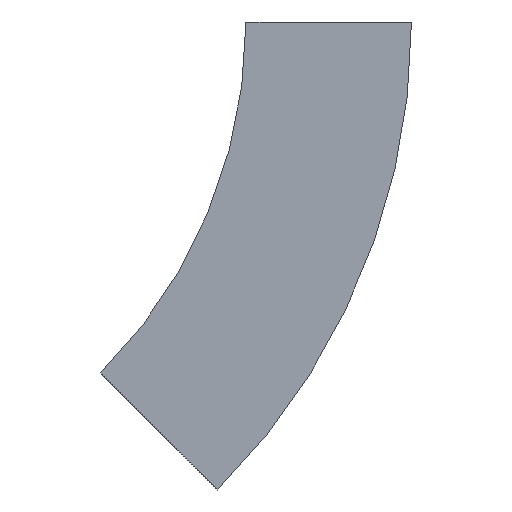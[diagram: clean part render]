
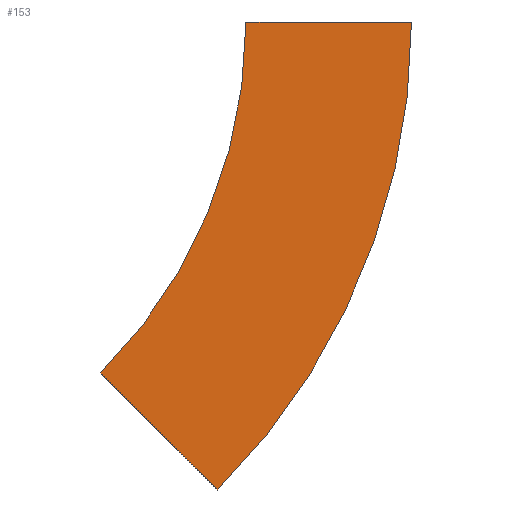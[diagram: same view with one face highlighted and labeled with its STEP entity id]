
A CAD part, left-side view. The second image highlights one B-rep face of the part: STEP entity #153.
In plain terms, the highlighted planar face has unit normal (-1, 0, 0) as drawn and (1, 0, 0) by its records, which use the part's own axes.
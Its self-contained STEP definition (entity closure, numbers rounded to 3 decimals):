
#9 = DIRECTION ( 'NONE',  ( 0., -1., 0. ) ) ;
#16 = AXIS2_PLACEMENT_3D ( 'NONE', #186, #143, #83 ) ;
#21 = CARTESIAN_POINT ( 'NONE',  ( 0., 0., 0. ) ) ;
#26 = VERTEX_POINT ( 'NONE', #509 ) ;
#38 = ORIENTED_EDGE ( 'NONE', *, *, #359, .F. ) ;
#65 = AXIS2_PLACEMENT_3D ( 'NONE', #313, #477, #223 ) ;
#83 = DIRECTION ( 'NONE',  ( 0., -1., 0. ) ) ;
#85 = CARTESIAN_POINT ( 'NONE',  ( 0., -100., 0. ) ) ;
#105 = ORIENTED_EDGE ( 'NONE', *, *, #471, .F. ) ;
#129 = VERTEX_POINT ( 'NONE', #435 ) ;
#142 = PLANE ( 'NONE',  #65 ) ;
#143 = DIRECTION ( 'NONE',  ( 1., 0., 0. ) ) ;
#153 = ADVANCED_FACE ( 'NONE', ( #523 ), #142, .F. ) ;
#155 = VECTOR ( 'NONE', #517, 1000. ) ;
#160 = EDGE_LOOP ( 'NONE', ( #105, #38, #468, #246 ) ) ;
#186 = CARTESIAN_POINT ( 'NONE',  ( 0., 300., 0. ) ) ;
#220 = VECTOR ( 'NONE', #424, 1000. ) ;
#223 = DIRECTION ( 'NONE',  ( 0., 0., 1. ) ) ;
#233 = AXIS2_PLACEMENT_3D ( 'NONE', #311, #474, #9 ) ;
#246 = ORIENTED_EDGE ( 'NONE', *, *, #440, .T. ) ;
#264 = VERTEX_POINT ( 'NONE', #21 ) ;
#280 = CIRCLE ( 'NONE', #16, 300. ) ;
#311 = CARTESIAN_POINT ( 'NONE',  ( 0., 300., 0. ) ) ;
#313 = CARTESIAN_POINT ( 'NONE',  ( 0., -100., 0. ) ) ;
#314 = LINE ( 'NONE', #85, #155 ) ;
#359 = EDGE_CURVE ( 'NONE', #129, #264, #314, .T. ) ;
#391 = CARTESIAN_POINT ( 'NONE',  ( 0., 17.157, -282.843 ) ) ;
#399 = CIRCLE ( 'NONE', #233, 400. ) ;
#408 = EDGE_CURVE ( 'NONE', #129, #558, #399, .T. ) ;
#424 = DIRECTION ( 'NONE',  ( 0., 0.707, 0.707 ) ) ;
#435 = CARTESIAN_POINT ( 'NONE',  ( 0., -100., 0. ) ) ;
#440 = EDGE_CURVE ( 'NONE', #558, #26, #524, .T. ) ;
#468 = ORIENTED_EDGE ( 'NONE', *, *, #408, .T. ) ;
#471 = EDGE_CURVE ( 'NONE', #264, #26, #280, .T. ) ;
#474 = DIRECTION ( 'NONE',  ( 1., 0., 0. ) ) ;
#477 = DIRECTION ( 'NONE',  ( -1., 0., 0. ) ) ;
#509 = CARTESIAN_POINT ( 'NONE',  ( 0., 87.868, -212.132 ) ) ;
#517 = DIRECTION ( 'NONE',  ( 0., 1., 0. ) ) ;
#519 = CARTESIAN_POINT ( 'NONE',  ( 0., 17.157, -282.843 ) ) ;
#523 = FACE_OUTER_BOUND ( 'NONE', #160, .T. ) ;
#524 = LINE ( 'NONE', #391, #220 ) ;
#558 = VERTEX_POINT ( 'NONE', #519 ) ;
